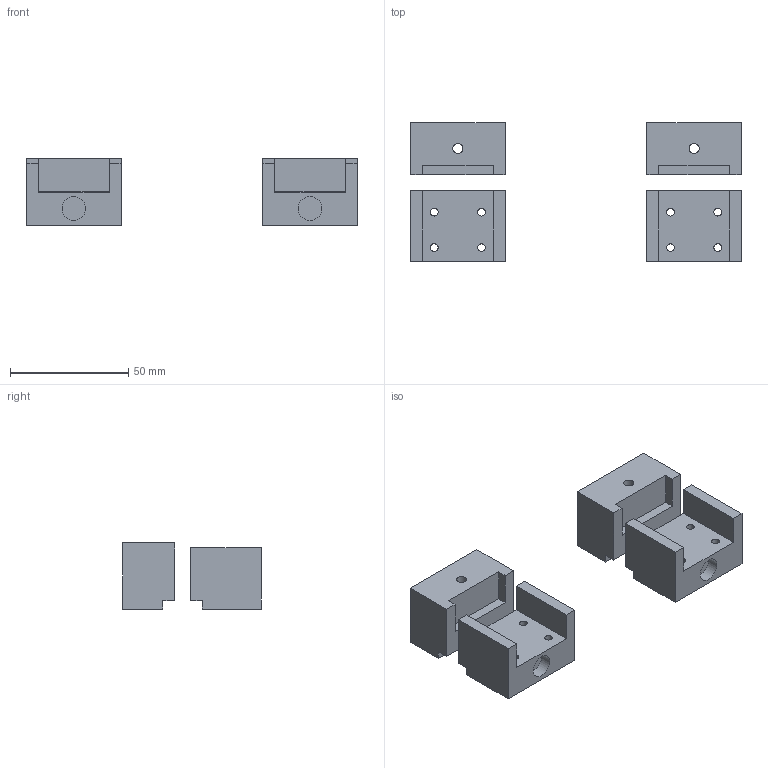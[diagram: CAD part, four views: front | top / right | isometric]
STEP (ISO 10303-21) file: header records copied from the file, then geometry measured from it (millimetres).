
FILE_DESCRIPTION(/* description */ (''),/* implementation_level */ '2;1');
FILE_NAME(/* name */ 'Guides films sans pont v11.step',/* time_stamp */ '2025-08-26T18:25:27+02:00',/* author */ (''),/* organization */ (''),/* preprocessor_version */ 'ST-DEVELOPER v20.1',/* originating_system */ 'Autodesk Translation Framework v14.10.0.0',/* authorisation */ '');
FILE_SCHEMA (('AUTOMOTIVE_DESIGN { 1 0 10303 214 3 1 1 }'));
Length unit declared in the file: millimetre
Products named in the file (1): Guides films sans pont
Bounding box: 140 x 58.8 x 28 mm (x, y, z)
Volume: 79369.7 mm3; surface area: 25668.5 mm2
Topology: 4 solids, 4 shells, 106 faces, 222 edges, 148 vertices
Faces by surface type: plane 72, cylinder 34
Full cylindrical faces by diameter (mm): 1.7 x12, 3.25 x8, 4.3 x2, 5.5 x8, 9 x2, 10 x2
Entity records: 2900 total; most frequent: DIRECTION 504, CARTESIAN_POINT 477, ORIENTED_EDGE 444, EDGE_CURVE 222, AXIS2_PLACEMENT_3D 175, LINE 154, VECTOR 154, EDGE_LOOP 150
